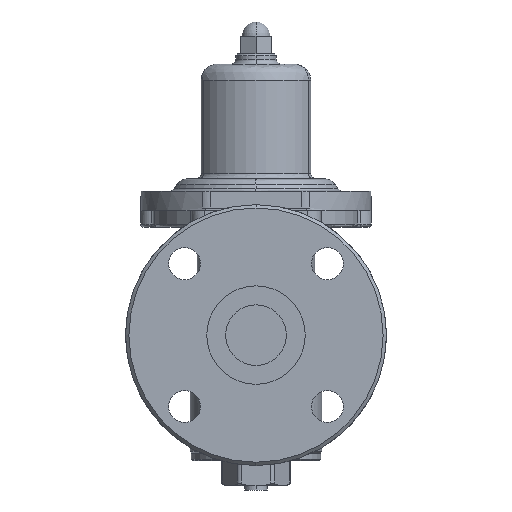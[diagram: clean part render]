
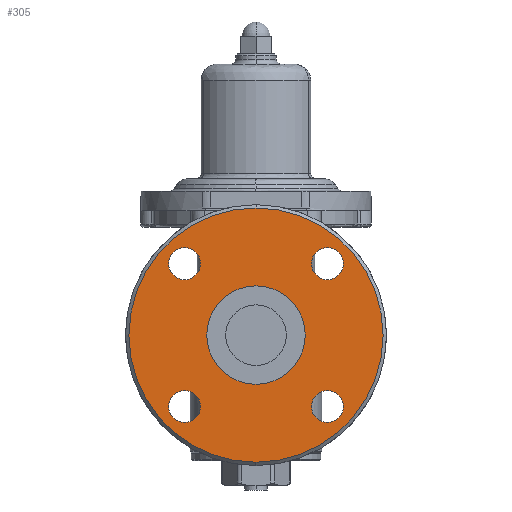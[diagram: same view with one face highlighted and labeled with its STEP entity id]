
A CAD part, left-side view. The second image highlights one B-rep face of the part: STEP entity #305.
In plain terms, the highlighted planar face has unit normal (-1, 0, 0).
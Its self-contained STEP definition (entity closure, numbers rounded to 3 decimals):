
#305=ADVANCED_FACE('',(#3263,#3264,#3265,#3266,#3267,#3268),#3262,.F.);
#3262=PLANE('',#10552);
#3263=FACE_OUTER_BOUND('',#10553,.T.);
#3264=FACE_BOUND('',#10554,.T.);
#3265=FACE_BOUND('',#10555,.T.);
#3266=FACE_BOUND('',#10556,.T.);
#3267=FACE_BOUND('',#10557,.T.);
#3268=FACE_BOUND('',#10558,.T.);
#10549=CARTESIAN_POINT('',(-127.5,-140.77,85.5));
#10550=DIRECTION('',(1.,0.,0.));
#10551=DIRECTION('',(0.,0.,-1.));
#10552=AXIS2_PLACEMENT_3D('',#10549,#10550,#10551);
#10553=EDGE_LOOP('',(#14274,#14275));
#10554=EDGE_LOOP('',(#14276,#14277));
#10555=EDGE_LOOP('',(#14278,#14279));
#10556=EDGE_LOOP('',(#14280,#14281));
#10557=EDGE_LOOP('',(#14282,#14283));
#10558=EDGE_LOOP('',(#14284,#14285));
#14274=ORIENTED_EDGE('',*,*,#16571,.T.);
#14275=ORIENTED_EDGE('',*,*,#16572,.T.);
#14276=ORIENTED_EDGE('',*,*,#16573,.F.);
#14277=ORIENTED_EDGE('',*,*,#16574,.F.);
#14278=ORIENTED_EDGE('',*,*,#16575,.F.);
#14279=ORIENTED_EDGE('',*,*,#16576,.F.);
#14280=ORIENTED_EDGE('',*,*,#16577,.F.);
#14281=ORIENTED_EDGE('',*,*,#16578,.F.);
#14282=ORIENTED_EDGE('',*,*,#16579,.T.);
#14283=ORIENTED_EDGE('',*,*,#16580,.T.);
#14284=ORIENTED_EDGE('',*,*,#16581,.F.);
#14285=ORIENTED_EDGE('',*,*,#16582,.F.);
#16571=EDGE_CURVE('',#22342,#22343,#22344,.T.);
#16572=EDGE_CURVE('',#22343,#22342,#22350,.T.);
#16573=EDGE_CURVE('',#22356,#22357,#22358,.T.);
#16574=EDGE_CURVE('',#22357,#22356,#22364,.T.);
#16575=EDGE_CURVE('',#22370,#22371,#22372,.T.);
#16576=EDGE_CURVE('',#22371,#22370,#22378,.T.);
#16577=EDGE_CURVE('',#22384,#22385,#22386,.T.);
#16578=EDGE_CURVE('',#22385,#22384,#22392,.T.);
#16579=EDGE_CURVE('',#22398,#22399,#22400,.T.);
#16580=EDGE_CURVE('',#22399,#22398,#22406,.T.);
#16581=EDGE_CURVE('',#22412,#22413,#22414,.T.);
#16582=EDGE_CURVE('',#22413,#22412,#22420,.T.);
#22342=VERTEX_POINT('',#30635);
#22343=VERTEX_POINT('',#30636);
#22344=CIRCLE('',#30640,75.5);
#22350=CIRCLE('',#30644,75.5);
#22356=VERTEX_POINT('',#30645);
#22357=VERTEX_POINT('',#30646);
#22358=CIRCLE('',#30650,9.5);
#22364=CIRCLE('',#30654,9.5);
#22370=VERTEX_POINT('',#30655);
#22371=VERTEX_POINT('',#30656);
#22372=CIRCLE('',#30660,9.5);
#22378=CIRCLE('',#30664,9.5);
#22384=VERTEX_POINT('',#30665);
#22385=VERTEX_POINT('',#30666);
#22386=CIRCLE('',#30670,9.5);
#22392=CIRCLE('',#30674,9.5);
#22398=VERTEX_POINT('',#30675);
#22399=VERTEX_POINT('',#30676);
#22400=CIRCLE('',#30680,29.25);
#22406=CIRCLE('',#30684,29.25);
#22412=VERTEX_POINT('',#30685);
#22413=VERTEX_POINT('',#30686);
#22414=CIRCLE('',#30690,9.5);
#22420=CIRCLE('',#30694,9.5);
#30635=CARTESIAN_POINT('',(-127.5,0.,75.5));
#30636=CARTESIAN_POINT('',(-127.5,0.,-75.5));
#30637=CARTESIAN_POINT('',(-127.5,0.,0.));
#30638=DIRECTION('',(-1.,0.,0.));
#30639=DIRECTION('',(0.,0.,1.));
#30640=AXIS2_PLACEMENT_3D('',#30637,#30638,#30639);
#30641=CARTESIAN_POINT('',(-127.5,0.,0.));
#30642=DIRECTION('',(-1.,0.,0.));
#30643=DIRECTION('',(0.,0.,1.));
#30644=AXIS2_PLACEMENT_3D('',#30641,#30642,#30643);
#30645=CARTESIAN_POINT('',(-127.5,42.426,-32.926));
#30646=CARTESIAN_POINT('',(-127.5,42.426,-51.926));
#30647=CARTESIAN_POINT('',(-127.5,42.426,-42.426));
#30648=DIRECTION('',(-1.,0.,0.));
#30649=DIRECTION('',(0.,0.,-1.));
#30650=AXIS2_PLACEMENT_3D('',#30647,#30648,#30649);
#30651=CARTESIAN_POINT('',(-127.5,42.426,-42.426));
#30652=DIRECTION('',(-1.,0.,0.));
#30653=DIRECTION('',(0.,0.,-1.));
#30654=AXIS2_PLACEMENT_3D('',#30651,#30652,#30653);
#30655=CARTESIAN_POINT('',(-127.5,42.426,51.926));
#30656=CARTESIAN_POINT('',(-127.5,42.426,32.926));
#30657=CARTESIAN_POINT('',(-127.5,42.426,42.426));
#30658=DIRECTION('',(-1.,0.,0.));
#30659=DIRECTION('',(0.,0.,-1.));
#30660=AXIS2_PLACEMENT_3D('',#30657,#30658,#30659);
#30661=CARTESIAN_POINT('',(-127.5,42.426,42.426));
#30662=DIRECTION('',(-1.,0.,0.));
#30663=DIRECTION('',(0.,0.,-1.));
#30664=AXIS2_PLACEMENT_3D('',#30661,#30662,#30663);
#30665=CARTESIAN_POINT('',(-127.5,-42.426,-32.926));
#30666=CARTESIAN_POINT('',(-127.5,-42.426,-51.926));
#30667=CARTESIAN_POINT('',(-127.5,-42.426,-42.426));
#30668=DIRECTION('',(-1.,0.,0.));
#30669=DIRECTION('',(0.,0.,-1.));
#30670=AXIS2_PLACEMENT_3D('',#30667,#30668,#30669);
#30671=CARTESIAN_POINT('',(-127.5,-42.426,-42.426));
#30672=DIRECTION('',(-1.,0.,0.));
#30673=DIRECTION('',(0.,0.,-1.));
#30674=AXIS2_PLACEMENT_3D('',#30671,#30672,#30673);
#30675=CARTESIAN_POINT('',(-127.5,0.,-29.25));
#30676=CARTESIAN_POINT('',(-127.5,0.,29.25));
#30677=CARTESIAN_POINT('',(-127.5,0.,0.));
#30678=DIRECTION('',(1.,0.,0.));
#30679=DIRECTION('',(0.,0.,-1.));
#30680=AXIS2_PLACEMENT_3D('',#30677,#30678,#30679);
#30681=CARTESIAN_POINT('',(-127.5,0.,0.));
#30682=DIRECTION('',(1.,0.,0.));
#30683=DIRECTION('',(0.,0.,-1.));
#30684=AXIS2_PLACEMENT_3D('',#30681,#30682,#30683);
#30685=CARTESIAN_POINT('',(-127.5,-42.426,51.926));
#30686=CARTESIAN_POINT('',(-127.5,-42.426,32.926));
#30687=CARTESIAN_POINT('',(-127.5,-42.426,42.426));
#30688=DIRECTION('',(-1.,0.,0.));
#30689=DIRECTION('',(0.,0.,-1.));
#30690=AXIS2_PLACEMENT_3D('',#30687,#30688,#30689);
#30691=CARTESIAN_POINT('',(-127.5,-42.426,42.426));
#30692=DIRECTION('',(-1.,0.,0.));
#30693=DIRECTION('',(0.,0.,-1.));
#30694=AXIS2_PLACEMENT_3D('',#30691,#30692,#30693);
